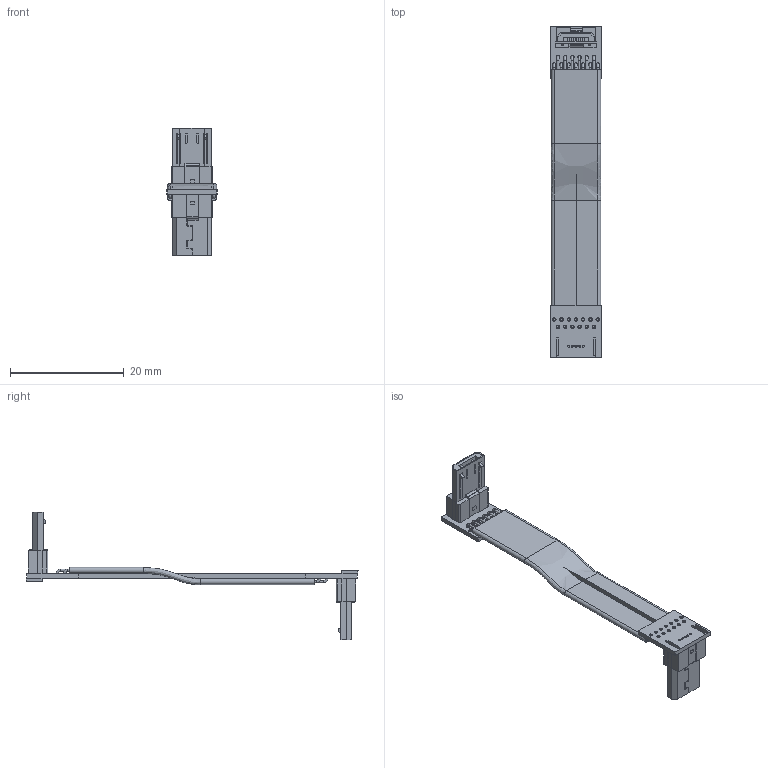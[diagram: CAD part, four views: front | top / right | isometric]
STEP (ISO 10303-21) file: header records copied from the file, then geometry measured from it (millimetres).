
FILE_DESCRIPTION(('Open CASCADE Model'),'2;1');
FILE_NAME('Open CASCADE Shape Model','2020-09-01T10:24:31',('Author'),( 'Open CASCADE'),'Open CASCADE STEP processor 6.8','Open CASCADE 6.8' ,'Unknown');
FILE_SCHEMA(('AUTOMOTIVE_DESIGN { 1 0 10303 214 1 1 1 1 }'));
Length unit declared in the file: millimetre
Products named in the file (34): PCB; Board; Open CASCADE STEP translator 6.8 24.1.1; Designator22_1; USB_micro; Designator22; Free-Models; cable13-US1A
Assembly tree (34 placements, depth 3):
  PCB
    Board
      Open CASCADE STEP translator 6.8 24.1.1
    Designator22_1
      USB_micro
    Designator22
      USB_micro
    Free-Models
      cable13-US1A
      cable13-US1A
      cable13-US1A
      cable13-US1A
      cable13-US1A
      cable13-US1A
      cable13-US1A
      cable13-US1A
      cable13-US1A
      cable13-US1A
      cable13-US1A
      cable13-US1A
      cable13-US1A
      cable13-US1A
      cable13-US1A
      cable13-US1A
      cable13-US1A
      cable13-US1A
      cable13-US1A
      cable13-US1A
      cable13-US1A
      cable13-US1A
      cable13-US1A
      cable13-US1A
      cable13-US1A
      cable13-US1A
      cable13-US1A
Bounding box: 8.83 x 58.33 x 22.36 mm (x, y, z)
Volume: 737.8 mm3; surface area: 2825.7 mm2
Topology: 30 solids, 30 shells, 585 faces, 1422 edges, 911 vertices
Faces by surface type: plane 355, cylinder 165, bspline 33, torus 26, extrusion 6
Full cylindrical faces by diameter (mm): 0.36 x10, 0.4 x59, 0.6 x26
Entity records: 17077 total; most frequent: CARTESIAN_POINT 3677, DIRECTION 2024, ORIENTED_EDGE 1952, EDGE_CURVE 976, AXIS2_PLACEMENT_3D 744, VERTEX_POINT 620, VECTOR 536, FACE_BOUND 534
